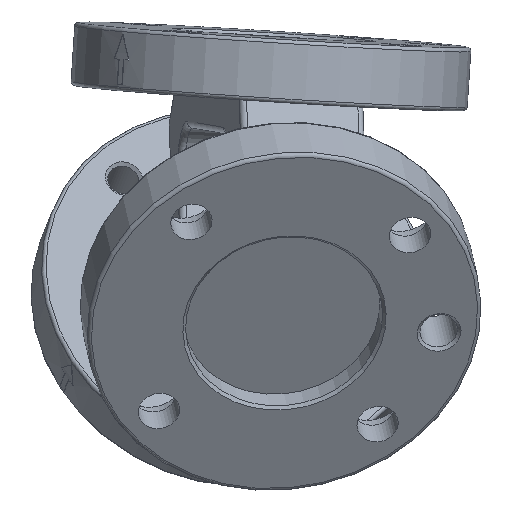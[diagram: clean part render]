
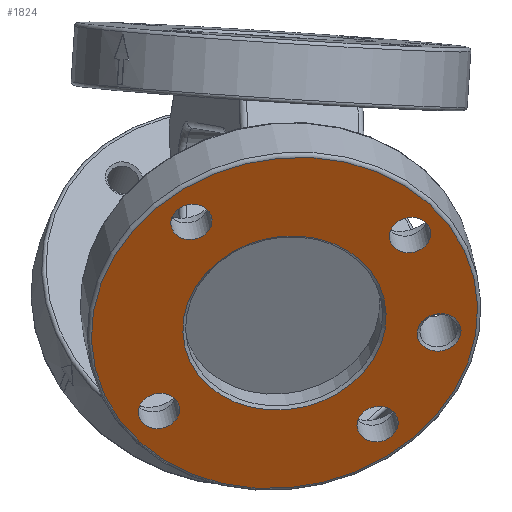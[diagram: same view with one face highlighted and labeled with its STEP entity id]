
A CAD part, isometric view. The second image highlights one B-rep face of the part: STEP entity #1824.
In plain terms, the highlighted planar face has unit normal (-0.612, -0.789, 0.057) as drawn and (0, 0, 1) by its records, which use the part's own axes.
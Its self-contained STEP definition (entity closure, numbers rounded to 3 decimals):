
#103=FACE_BOUND('',#505,.T.);
#104=FACE_BOUND('',#506,.T.);
#105=FACE_BOUND('',#507,.T.);
#106=FACE_BOUND('',#508,.T.);
#107=FACE_BOUND('',#509,.T.);
#108=FACE_BOUND('',#510,.T.);
#195=CIRCLE('',#2081,3.3);
#201=CIRCLE('',#2090,3.3);
#207=CIRCLE('',#2099,3.3);
#213=CIRCLE('',#2108,3.3);
#226=CIRCLE('',#2137,16.26);
#227=CIRCLE('',#2139,30.9);
#228=CIRCLE('',#2140,30.9);
#229=CIRCLE('',#2141,3.51);
#274=PLANE('',#2138);
#374=FACE_OUTER_BOUND('',#504,.T.);
#504=EDGE_LOOP('',(#1648,#1649));
#505=EDGE_LOOP('',(#1650));
#506=EDGE_LOOP('',(#1651));
#507=EDGE_LOOP('',(#1652));
#508=EDGE_LOOP('',(#1653));
#509=EDGE_LOOP('',(#1654));
#510=EDGE_LOOP('',(#1655));
#875=VERTEX_POINT('',#3180);
#881=VERTEX_POINT('',#3197);
#887=VERTEX_POINT('',#3214);
#893=VERTEX_POINT('',#3231);
#914=VERTEX_POINT('',#3295);
#915=VERTEX_POINT('',#3299);
#916=VERTEX_POINT('',#3300);
#917=VERTEX_POINT('',#3303);
#1108=EDGE_CURVE('',#875,#875,#195,.T.);
#1116=EDGE_CURVE('',#881,#881,#201,.T.);
#1124=EDGE_CURVE('',#887,#887,#207,.T.);
#1132=EDGE_CURVE('',#893,#893,#213,.T.);
#1164=EDGE_CURVE('',#914,#914,#226,.T.);
#1165=EDGE_CURVE('',#915,#916,#227,.T.);
#1166=EDGE_CURVE('',#916,#915,#228,.T.);
#1167=EDGE_CURVE('',#917,#917,#229,.T.);
#1648=ORIENTED_EDGE('',*,*,#1165,.F.);
#1649=ORIENTED_EDGE('',*,*,#1166,.F.);
#1650=ORIENTED_EDGE('',*,*,#1108,.T.);
#1651=ORIENTED_EDGE('',*,*,#1116,.T.);
#1652=ORIENTED_EDGE('',*,*,#1124,.T.);
#1653=ORIENTED_EDGE('',*,*,#1132,.T.);
#1654=ORIENTED_EDGE('',*,*,#1167,.F.);
#1655=ORIENTED_EDGE('',*,*,#1164,.F.);
#1824=ADVANCED_FACE('',(#374,#103,#104,#105,#106,#107,#108),#274,.T.);
#2081=AXIS2_PLACEMENT_3D('',#3181,#2611,#2612);
#2090=AXIS2_PLACEMENT_3D('',#3198,#2631,#2632);
#2099=AXIS2_PLACEMENT_3D('',#3215,#2651,#2652);
#2108=AXIS2_PLACEMENT_3D('',#3232,#2671,#2672);
#2137=AXIS2_PLACEMENT_3D('',#3297,#2744,#2745);
#2138=AXIS2_PLACEMENT_3D('',#3298,#2746,#2747);
#2139=AXIS2_PLACEMENT_3D('',#3301,#2748,#2749);
#2140=AXIS2_PLACEMENT_3D('',#3302,#2750,#2751);
#2141=AXIS2_PLACEMENT_3D('',#3304,#2752,#2753);
#2611=DIRECTION('center_axis',(0.,0.,-1.));
#2612=DIRECTION('ref_axis',(-1.,0.,0.));
#2631=DIRECTION('center_axis',(0.,0.,-1.));
#2632=DIRECTION('ref_axis',(-1.,0.,0.));
#2651=DIRECTION('center_axis',(0.,0.,-1.));
#2652=DIRECTION('ref_axis',(-1.,0.,0.));
#2671=DIRECTION('center_axis',(0.,0.,-1.));
#2672=DIRECTION('ref_axis',(-1.,0.,0.));
#2744=DIRECTION('center_axis',(0.,0.,1.));
#2745=DIRECTION('ref_axis',(-1.,0.,0.));
#2746=DIRECTION('center_axis',(0.,0.,1.));
#2747=DIRECTION('ref_axis',(1.,0.,0.));
#2748=DIRECTION('center_axis',(0.,0.,-1.));
#2749=DIRECTION('ref_axis',(-1.,0.,0.));
#2750=DIRECTION('center_axis',(0.,0.,-1.));
#2751=DIRECTION('ref_axis',(-1.,0.,0.));
#2752=DIRECTION('center_axis',(0.,0.,1.));
#2753=DIRECTION('ref_axis',(-1.,0.,0.));
#3180=CARTESIAN_POINT('',(20.978,-17.678,10.));
#3181=CARTESIAN_POINT('Origin',(17.678,-17.678,10.));
#3197=CARTESIAN_POINT('',(-14.378,17.678,10.));
#3198=CARTESIAN_POINT('Origin',(-17.678,17.678,10.));
#3214=CARTESIAN_POINT('',(-14.378,-17.678,10.));
#3215=CARTESIAN_POINT('Origin',(-17.678,-17.678,10.));
#3231=CARTESIAN_POINT('',(20.978,17.678,10.));
#3232=CARTESIAN_POINT('Origin',(17.678,17.678,10.));
#3295=CARTESIAN_POINT('',(16.26,0.,10.));
#3297=CARTESIAN_POINT('Origin',(0.,0.,10.));
#3298=CARTESIAN_POINT('Origin',(0.,0.,
10.));
#3299=CARTESIAN_POINT('',(30.9,0.,10.));
#3300=CARTESIAN_POINT('',(-30.9,0.,10.));
#3301=CARTESIAN_POINT('Origin',(0.,0.,10.));
#3302=CARTESIAN_POINT('Origin',(0.,0.,10.));
#3303=CARTESIAN_POINT('',(28.51,0.,10.));
#3304=CARTESIAN_POINT('Origin',(25.,0.,10.));
